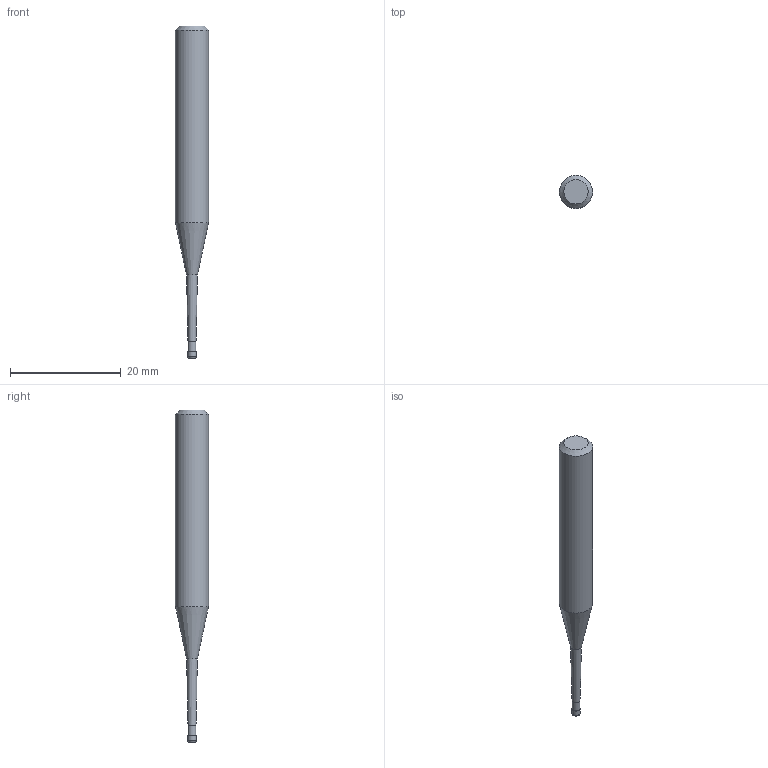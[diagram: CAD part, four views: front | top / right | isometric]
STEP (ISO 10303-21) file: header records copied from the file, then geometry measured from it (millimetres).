
FILE_DESCRIPTION((''),'2;1');
FILE_NAME('C:\Users\nsx150\AppData\Local\Temp\Mastercam 2021\YKS1SUSFZB\TEMP.step','2025-06-23T14:04:14',(''),(''),'STEP Write','Mastercam 2021 ... CNC Software, Inc.','');
FILE_SCHEMA(('AUTOMOTIVE_DESIGN'));
Length unit declared in the file: millimetre
Products named in the file (1): None
Bounding box: 6 x 6 x 60 mm (x, y, z)
Volume: 1159.8 mm3; surface area: 892.3 mm2
Topology: 2 solids, 2 shells, 11 faces, 16 edges, 9 vertices
Faces by surface type: plane 4, cylinder 3, cone 3, torus 1
Full cylindrical faces by diameter (mm): 1.44 x1, 1.5 x1, 6 x1
Entity records: 253 total; most frequent: DIRECTION 44, CARTESIAN_POINT 31, AXIS2_PLACEMENT_3D 22, ORIENTED_EDGE 18, EDGE_LOOP 18, STYLED_ITEM 14, ADVANCED_FACE 11, FACE_BOUND 11
